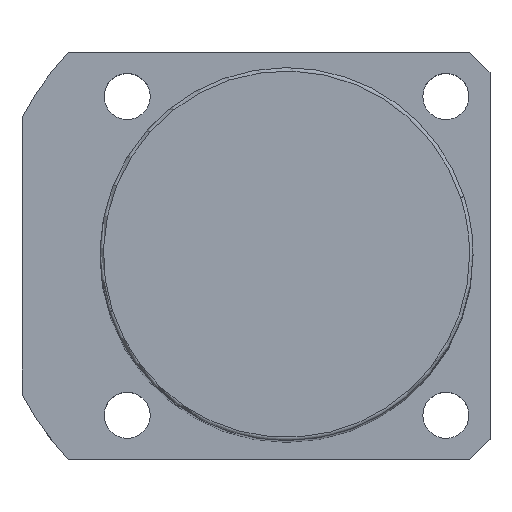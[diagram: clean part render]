
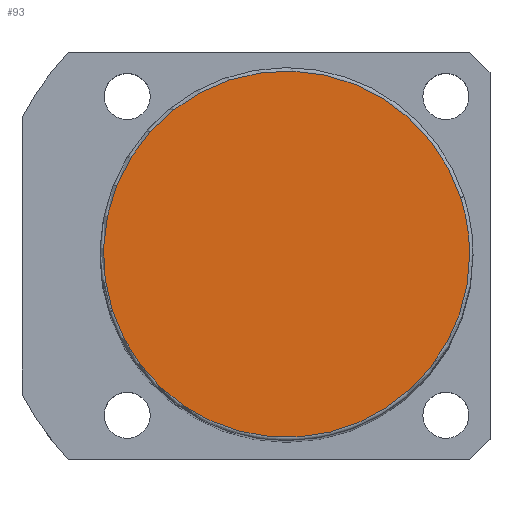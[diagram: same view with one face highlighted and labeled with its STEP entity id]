
A CAD part, top view. The second image highlights one B-rep face of the part: STEP entity #93.
In plain terms, the highlighted planar face has unit normal (0, 0, 1).
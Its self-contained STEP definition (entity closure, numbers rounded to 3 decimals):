
#16=CARTESIAN_POINT('',(25.679,8.343,156.0));
#17=VERTEX_POINT('',#16);
#45=CARTESIAN_POINT('',(-25.679,-8.343,156.0));
#46=VERTEX_POINT('',#45);
#54=CARTESIAN_POINT('',(0.0,0.0,156.0));
#55=DIRECTION('',(0.0,0.0,1.0));
#56=DIRECTION('',(1.0,0.0,0.0));
#57=AXIS2_PLACEMENT_3D('',#54,#55,#56);
#58=CIRCLE('',#57,27.0);
#59=EDGE_CURVE('no 890',#17,#46,#58,.T.);
#69=CARTESIAN_POINT('',(27.0,0.0,156.0));
#70=VERTEX_POINT('',#69);
#71=CARTESIAN_POINT('',(0.0,0.0,156.0));
#72=DIRECTION('',(0.0,0.0,1.0));
#73=DIRECTION('',(1.0,0.0,0.0));
#74=AXIS2_PLACEMENT_3D('',#71,#72,#73);
#75=CIRCLE('',#74,27.0);
#76=EDGE_CURVE('no 899',#70,#17,#75,.T.);
#77=ORIENTED_EDGE('',*,*,#76,.T.);
#78=ORIENTED_EDGE('',*,*,#59,.T.);
#79=CARTESIAN_POINT('',(0.0,0.0,156.0));
#80=DIRECTION('',(0.0,0.0,1.0));
#81=DIRECTION('',(1.0,0.0,0.0));
#82=AXIS2_PLACEMENT_3D('',#79,#80,#81);
#83=CIRCLE('',#82,27.0);
#84=EDGE_CURVE('no 905',#46,#70,#83,.T.);
#85=ORIENTED_EDGE('',*,*,#84,.T.);
#86=EDGE_LOOP('',(#77,#78,#85));
#87=FACE_OUTER_BOUND('',#86,.T.);
#88=CARTESIAN_POINT('',(0.0,0.0,156.0));
#89=DIRECTION('',(0.0,0.0,1.0));
#90=DIRECTION('',(1.0,0.0,0.0));
#91=AXIS2_PLACEMENT_3D('',#88,#89,#90);
#92=PLANE('',#91);
#93=ADVANCED_FACE('no 892',(#87),#92,.T.);
